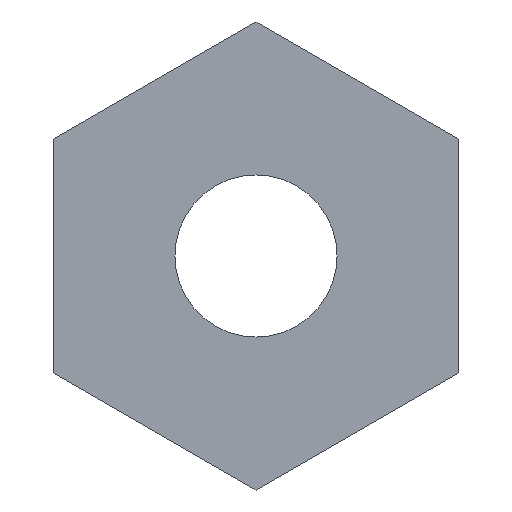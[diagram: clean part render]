
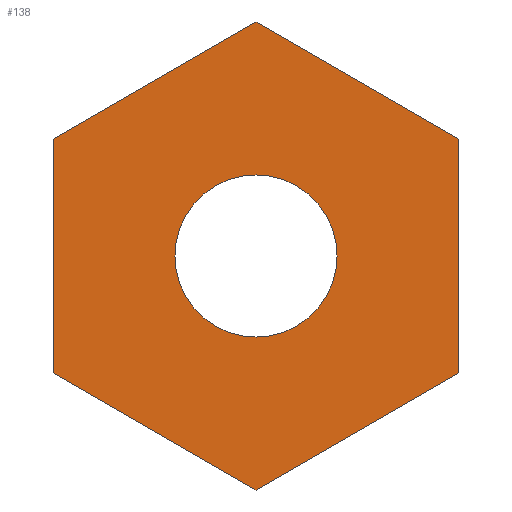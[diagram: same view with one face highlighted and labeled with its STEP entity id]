
A CAD part, front view. The second image highlights one B-rep face of the part: STEP entity #138.
In plain terms, the highlighted planar face has unit normal (0, -1, 0).
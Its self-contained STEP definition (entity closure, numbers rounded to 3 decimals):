
#22 = VERTEX_POINT('',#23);
#23 = CARTESIAN_POINT('',(0.,-1.6,0.8));
#32 = CYLINDRICAL_SURFACE('',#33,0.8);
#33 = AXIS2_PLACEMENT_3D('',#34,#35,#36);
#34 = CARTESIAN_POINT('',(0.,-1.7,0.));
#35 = DIRECTION('',(0.,1.,0.));
#36 = DIRECTION('',(0.,-0.,1.));
#44 = CYLINDRICAL_SURFACE('',#45,0.8);
#45 = AXIS2_PLACEMENT_3D('',#46,#47,#48);
#46 = CARTESIAN_POINT('',(0.,-1.7,0.));
#47 = DIRECTION('',(0.,1.,0.));
#48 = DIRECTION('',(0.,-0.,1.));
#86 = VERTEX_POINT('',#87);
#87 = CARTESIAN_POINT('',(0.,-1.6,-0.8));
#108 = EDGE_CURVE('',#86,#22,#109,.T.);
#109 = SURFACE_CURVE('',#110,(#115,#122),.PCURVE_S1.);
#110 = CIRCLE('',#111,0.8);
#111 = AXIS2_PLACEMENT_3D('',#112,#113,#114);
#112 = CARTESIAN_POINT('',(0.,-1.6,0.));
#113 = DIRECTION('',(0.,1.,0.));
#114 = DIRECTION('',(0.,-0.,1.));
#115 = PCURVE('',#32,#116);
#116 = DEFINITIONAL_REPRESENTATION('',(#117),#121);
#117 = LINE('',#118,#119);
#118 = CARTESIAN_POINT('',(0.,0.1));
#119 = VECTOR('',#120,1.);
#120 = DIRECTION('',(1.,0.));
#121 = ( GEOMETRIC_REPRESENTATION_CONTEXT(2) 
PARAMETRIC_REPRESENTATION_CONTEXT() REPRESENTATION_CONTEXT('2D SPACE',''
  ) );
#122 = PCURVE('',#123,#128);
#123 = PLANE('',#124);
#124 = AXIS2_PLACEMENT_3D('',#125,#126,#127);
#125 = CARTESIAN_POINT('',(0.,-1.6,0.)
  );
#126 = DIRECTION('',(0.,-1.,0.));
#127 = DIRECTION('',(0.,-0.,-1.));
#128 = DEFINITIONAL_REPRESENTATION('',(#129),#137);
#129 = ( BOUNDED_CURVE() B_SPLINE_CURVE(2,(#130,#131,#132,#133,#134,#135
,#136),.UNSPECIFIED.,.T.,.F.) B_SPLINE_CURVE_WITH_KNOTS((1,2,2,2,2,1),(
    -2.094,0.,2.094,4.189,6.283,
8.378),.UNSPECIFIED.) CURVE() GEOMETRIC_REPRESENTATION_ITEM() 
RATIONAL_B_SPLINE_CURVE((1.,0.5,1.,0.5,1.,0.5,1.)) REPRESENTATION_ITEM(
  '') );
#130 = CARTESIAN_POINT('',(-0.8,0.));
#131 = CARTESIAN_POINT('',(-0.8,1.386));
#132 = CARTESIAN_POINT('',(0.4,0.693));
#133 = CARTESIAN_POINT('',(1.6,0.));
#134 = CARTESIAN_POINT('',(0.4,-0.693));
#135 = CARTESIAN_POINT('',(-0.8,-1.386));
#136 = CARTESIAN_POINT('',(-0.8,0.));
#137 = ( GEOMETRIC_REPRESENTATION_CONTEXT(2) 
PARAMETRIC_REPRESENTATION_CONTEXT() REPRESENTATION_CONTEXT('2D SPACE',''
  ) );
#138 = ADVANCED_FACE('',(#139,#168),#123,.T.);
#139 = FACE_BOUND('',#140,.T.);
#140 = EDGE_LOOP('',(#141,#167));
#141 = ORIENTED_EDGE('',*,*,#142,.T.);
#142 = EDGE_CURVE('',#22,#86,#143,.T.);
#143 = SURFACE_CURVE('',#144,(#149,#160),.PCURVE_S1.);
#144 = CIRCLE('',#145,0.8);
#145 = AXIS2_PLACEMENT_3D('',#146,#147,#148);
#146 = CARTESIAN_POINT('',(0.,-1.6,0.));
#147 = DIRECTION('',(0.,1.,0.));
#148 = DIRECTION('',(0.,-0.,1.));
#149 = PCURVE('',#123,#150);
#150 = DEFINITIONAL_REPRESENTATION('',(#151),#159);
#151 = ( BOUNDED_CURVE() B_SPLINE_CURVE(2,(#152,#153,#154,#155,#156,#157
,#158),.UNSPECIFIED.,.T.,.F.) B_SPLINE_CURVE_WITH_KNOTS((1,2,2,2,2,1),(
    -2.094,0.,2.094,4.189,6.283,
8.378),.UNSPECIFIED.) CURVE() GEOMETRIC_REPRESENTATION_ITEM() 
RATIONAL_B_SPLINE_CURVE((1.,0.5,1.,0.5,1.,0.5,1.)) REPRESENTATION_ITEM(
  '') );
#152 = CARTESIAN_POINT('',(-0.8,0.));
#153 = CARTESIAN_POINT('',(-0.8,1.386));
#154 = CARTESIAN_POINT('',(0.4,0.693));
#155 = CARTESIAN_POINT('',(1.6,0.));
#156 = CARTESIAN_POINT('',(0.4,-0.693));
#157 = CARTESIAN_POINT('',(-0.8,-1.386));
#158 = CARTESIAN_POINT('',(-0.8,0.));
#159 = ( GEOMETRIC_REPRESENTATION_CONTEXT(2) 
PARAMETRIC_REPRESENTATION_CONTEXT() REPRESENTATION_CONTEXT('2D SPACE',''
  ) );
#160 = PCURVE('',#44,#161);
#161 = DEFINITIONAL_REPRESENTATION('',(#162),#166);
#162 = LINE('',#163,#164);
#163 = CARTESIAN_POINT('',(0.,0.1));
#164 = VECTOR('',#165,1.);
#165 = DIRECTION('',(1.,0.));
#166 = ( GEOMETRIC_REPRESENTATION_CONTEXT(2) 
PARAMETRIC_REPRESENTATION_CONTEXT() REPRESENTATION_CONTEXT('2D SPACE',''
  ) );
#167 = ORIENTED_EDGE('',*,*,#108,.T.);
#168 = FACE_BOUND('',#169,.T.);
#169 = EDGE_LOOP('',(#170,#200,#228,#256,#284,#312));
#170 = ORIENTED_EDGE('',*,*,#171,.T.);
#171 = EDGE_CURVE('',#172,#174,#176,.T.);
#172 = VERTEX_POINT('',#173);
#173 = CARTESIAN_POINT('',(0.,-1.6,-2.309));
#174 = VERTEX_POINT('',#175);
#175 = CARTESIAN_POINT('',(2.,-1.6,-1.155));
#176 = SURFACE_CURVE('',#177,(#181,#188),.PCURVE_S1.);
#177 = LINE('',#178,#179);
#178 = CARTESIAN_POINT('',(0.,-1.6,-2.309));
#179 = VECTOR('',#180,1.);
#180 = DIRECTION('',(0.866,0.,0.5));
#181 = PCURVE('',#123,#182);
#182 = DEFINITIONAL_REPRESENTATION('',(#183),#187);
#183 = LINE('',#184,#185);
#184 = CARTESIAN_POINT('',(2.309,0.));
#185 = VECTOR('',#186,1.);
#186 = DIRECTION('',(-0.5,0.866));
#187 = ( GEOMETRIC_REPRESENTATION_CONTEXT(2) 
PARAMETRIC_REPRESENTATION_CONTEXT() REPRESENTATION_CONTEXT('2D SPACE',''
  ) );
#188 = PCURVE('',#189,#194);
#189 = PLANE('',#190);
#190 = AXIS2_PLACEMENT_3D('',#191,#192,#193);
#191 = CARTESIAN_POINT('',(0.,-1.6,-2.309));
#192 = DIRECTION('',(0.5,0.,-0.866));
#193 = DIRECTION('',(-0.866,0.,-0.5));
#194 = DEFINITIONAL_REPRESENTATION('',(#195),#199);
#195 = LINE('',#196,#197);
#196 = CARTESIAN_POINT('',(0.,0.));
#197 = VECTOR('',#198,1.);
#198 = DIRECTION('',(-1.,0.));
#199 = ( GEOMETRIC_REPRESENTATION_CONTEXT(2) 
PARAMETRIC_REPRESENTATION_CONTEXT() REPRESENTATION_CONTEXT('2D SPACE',''
  ) );
#200 = ORIENTED_EDGE('',*,*,#201,.T.);
#201 = EDGE_CURVE('',#174,#202,#204,.T.);
#202 = VERTEX_POINT('',#203);
#203 = CARTESIAN_POINT('',(2.,-1.6,1.155));
#204 = SURFACE_CURVE('',#205,(#209,#216),.PCURVE_S1.);
#205 = LINE('',#206,#207);
#206 = CARTESIAN_POINT('',(2.,-1.6,0.));
#207 = VECTOR('',#208,1.);
#208 = DIRECTION('',(-0.,0.,1.));
#209 = PCURVE('',#123,#210);
#210 = DEFINITIONAL_REPRESENTATION('',(#211),#215);
#211 = LINE('',#212,#213);
#212 = CARTESIAN_POINT('',(0.,2.));
#213 = VECTOR('',#214,1.);
#214 = DIRECTION('',(-1.,0.));
#215 = ( GEOMETRIC_REPRESENTATION_CONTEXT(2) 
PARAMETRIC_REPRESENTATION_CONTEXT() REPRESENTATION_CONTEXT('2D SPACE',''
  ) );
#216 = PCURVE('',#217,#222);
#217 = PLANE('',#218);
#218 = AXIS2_PLACEMENT_3D('',#219,#220,#221);
#219 = CARTESIAN_POINT('',(2.,-1.6,-1.155));
#220 = DIRECTION('',(1.,0.,0.));
#221 = DIRECTION('',(0.,0.,-1.));
#222 = DEFINITIONAL_REPRESENTATION('',(#223),#227);
#223 = LINE('',#224,#225);
#224 = CARTESIAN_POINT('',(-1.155,0.));
#225 = VECTOR('',#226,1.);
#226 = DIRECTION('',(-1.,0.));
#227 = ( GEOMETRIC_REPRESENTATION_CONTEXT(2) 
PARAMETRIC_REPRESENTATION_CONTEXT() REPRESENTATION_CONTEXT('2D SPACE',''
  ) );
#228 = ORIENTED_EDGE('',*,*,#229,.T.);
#229 = EDGE_CURVE('',#202,#230,#232,.T.);
#230 = VERTEX_POINT('',#231);
#231 = CARTESIAN_POINT('',(0.,-1.6,2.309));
#232 = SURFACE_CURVE('',#233,(#237,#244),.PCURVE_S1.);
#233 = LINE('',#234,#235);
#234 = CARTESIAN_POINT('',(2.,-1.6,1.155));
#235 = VECTOR('',#236,1.);
#236 = DIRECTION('',(-0.866,0.,0.5));
#237 = PCURVE('',#123,#238);
#238 = DEFINITIONAL_REPRESENTATION('',(#239),#243);
#239 = LINE('',#240,#241);
#240 = CARTESIAN_POINT('',(-1.155,2.));
#241 = VECTOR('',#242,1.);
#242 = DIRECTION('',(-0.5,-0.866));
#243 = ( GEOMETRIC_REPRESENTATION_CONTEXT(2) 
PARAMETRIC_REPRESENTATION_CONTEXT() REPRESENTATION_CONTEXT('2D SPACE',''
  ) );
#244 = PCURVE('',#245,#250);
#245 = PLANE('',#246);
#246 = AXIS2_PLACEMENT_3D('',#247,#248,#249);
#247 = CARTESIAN_POINT('',(2.,-1.6,1.155));
#248 = DIRECTION('',(0.5,0.,0.866));
#249 = DIRECTION('',(0.866,0.,-0.5));
#250 = DEFINITIONAL_REPRESENTATION('',(#251),#255);
#251 = LINE('',#252,#253);
#252 = CARTESIAN_POINT('',(0.,0.));
#253 = VECTOR('',#254,1.);
#254 = DIRECTION('',(-1.,0.));
#255 = ( GEOMETRIC_REPRESENTATION_CONTEXT(2) 
PARAMETRIC_REPRESENTATION_CONTEXT() REPRESENTATION_CONTEXT('2D SPACE',''
  ) );
#256 = ORIENTED_EDGE('',*,*,#257,.T.);
#257 = EDGE_CURVE('',#230,#258,#260,.T.);
#258 = VERTEX_POINT('',#259);
#259 = CARTESIAN_POINT('',(-2.,-1.6,1.155));
#260 = SURFACE_CURVE('',#261,(#265,#272),.PCURVE_S1.);
#261 = LINE('',#262,#263);
#262 = CARTESIAN_POINT('',(0.,-1.6,2.309));
#263 = VECTOR('',#264,1.);
#264 = DIRECTION('',(-0.866,0.,-0.5));
#265 = PCURVE('',#123,#266);
#266 = DEFINITIONAL_REPRESENTATION('',(#267),#271);
#267 = LINE('',#268,#269);
#268 = CARTESIAN_POINT('',(-2.309,0.));
#269 = VECTOR('',#270,1.);
#270 = DIRECTION('',(0.5,-0.866));
#271 = ( GEOMETRIC_REPRESENTATION_CONTEXT(2) 
PARAMETRIC_REPRESENTATION_CONTEXT() REPRESENTATION_CONTEXT('2D SPACE',''
  ) );
#272 = PCURVE('',#273,#278);
#273 = PLANE('',#274);
#274 = AXIS2_PLACEMENT_3D('',#275,#276,#277);
#275 = CARTESIAN_POINT('',(0.,-1.6,2.309));
#276 = DIRECTION('',(-0.5,0.,0.866));
#277 = DIRECTION('',(0.866,0.,0.5));
#278 = DEFINITIONAL_REPRESENTATION('',(#279),#283);
#279 = LINE('',#280,#281);
#280 = CARTESIAN_POINT('',(0.,0.));
#281 = VECTOR('',#282,1.);
#282 = DIRECTION('',(-1.,0.));
#283 = ( GEOMETRIC_REPRESENTATION_CONTEXT(2) 
PARAMETRIC_REPRESENTATION_CONTEXT() REPRESENTATION_CONTEXT('2D SPACE',''
  ) );
#284 = ORIENTED_EDGE('',*,*,#285,.T.);
#285 = EDGE_CURVE('',#258,#286,#288,.T.);
#286 = VERTEX_POINT('',#287);
#287 = CARTESIAN_POINT('',(-2.,-1.6,-1.155));
#288 = SURFACE_CURVE('',#289,(#293,#300),.PCURVE_S1.);
#289 = LINE('',#290,#291);
#290 = CARTESIAN_POINT('',(-2.,-1.6,0.));
#291 = VECTOR('',#292,1.);
#292 = DIRECTION('',(0.,-0.,-1.));
#293 = PCURVE('',#123,#294);
#294 = DEFINITIONAL_REPRESENTATION('',(#295),#299);
#295 = LINE('',#296,#297);
#296 = CARTESIAN_POINT('',(-0.,-2.));
#297 = VECTOR('',#298,1.);
#298 = DIRECTION('',(1.,0.));
#299 = ( GEOMETRIC_REPRESENTATION_CONTEXT(2) 
PARAMETRIC_REPRESENTATION_CONTEXT() REPRESENTATION_CONTEXT('2D SPACE',''
  ) );
#300 = PCURVE('',#301,#306);
#301 = PLANE('',#302);
#302 = AXIS2_PLACEMENT_3D('',#303,#304,#305);
#303 = CARTESIAN_POINT('',(-2.,-1.6,1.155));
#304 = DIRECTION('',(-1.,0.,0.));
#305 = DIRECTION('',(0.,0.,1.));
#306 = DEFINITIONAL_REPRESENTATION('',(#307),#311);
#307 = LINE('',#308,#309);
#308 = CARTESIAN_POINT('',(-1.155,0.));
#309 = VECTOR('',#310,1.);
#310 = DIRECTION('',(-1.,0.));
#311 = ( GEOMETRIC_REPRESENTATION_CONTEXT(2) 
PARAMETRIC_REPRESENTATION_CONTEXT() REPRESENTATION_CONTEXT('2D SPACE',''
  ) );
#312 = ORIENTED_EDGE('',*,*,#313,.T.);
#313 = EDGE_CURVE('',#286,#172,#314,.T.);
#314 = SURFACE_CURVE('',#315,(#319,#326),.PCURVE_S1.);
#315 = LINE('',#316,#317);
#316 = CARTESIAN_POINT('',(-2.,-1.6,-1.155));
#317 = VECTOR('',#318,1.);
#318 = DIRECTION('',(0.866,0.,-0.5));
#319 = PCURVE('',#123,#320);
#320 = DEFINITIONAL_REPRESENTATION('',(#321),#325);
#321 = LINE('',#322,#323);
#322 = CARTESIAN_POINT('',(1.155,-2.));
#323 = VECTOR('',#324,1.);
#324 = DIRECTION('',(0.5,0.866));
#325 = ( GEOMETRIC_REPRESENTATION_CONTEXT(2) 
PARAMETRIC_REPRESENTATION_CONTEXT() REPRESENTATION_CONTEXT('2D SPACE',''
  ) );
#326 = PCURVE('',#327,#332);
#327 = PLANE('',#328);
#328 = AXIS2_PLACEMENT_3D('',#329,#330,#331);
#329 = CARTESIAN_POINT('',(-2.,-1.6,-1.155));
#330 = DIRECTION('',(-0.5,0.,-0.866));
#331 = DIRECTION('',(-0.866,0.,0.5));
#332 = DEFINITIONAL_REPRESENTATION('',(#333),#337);
#333 = LINE('',#334,#335);
#334 = CARTESIAN_POINT('',(0.,0.));
#335 = VECTOR('',#336,1.);
#336 = DIRECTION('',(-1.,0.));
#337 = ( GEOMETRIC_REPRESENTATION_CONTEXT(2) 
PARAMETRIC_REPRESENTATION_CONTEXT() REPRESENTATION_CONTEXT('2D SPACE',''
  ) );
